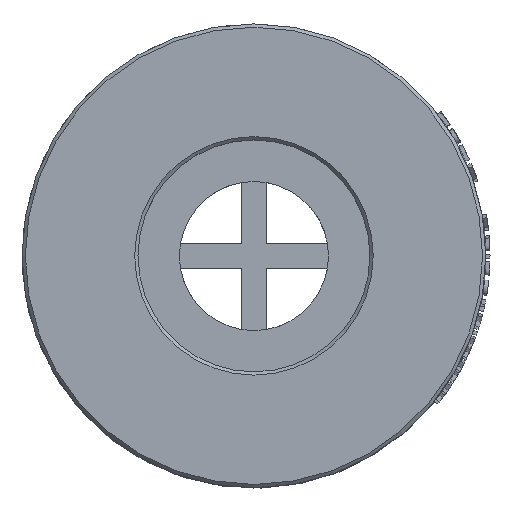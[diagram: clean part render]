
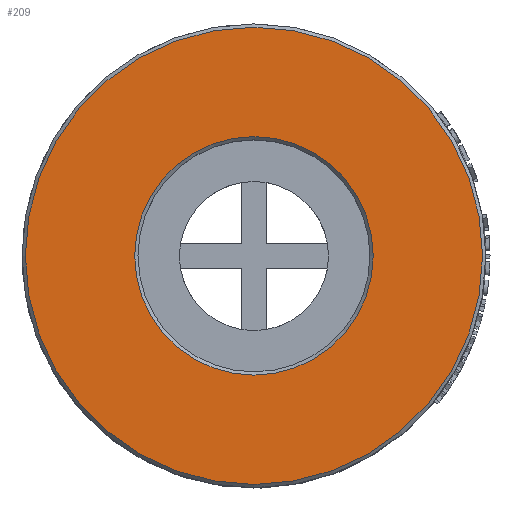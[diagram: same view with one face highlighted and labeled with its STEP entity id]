
A CAD part, top view. The second image highlights one B-rep face of the part: STEP entity #209.
In plain terms, the highlighted planar face has unit normal (0, 0, 1).
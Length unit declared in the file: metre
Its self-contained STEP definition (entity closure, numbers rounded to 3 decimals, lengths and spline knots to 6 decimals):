
#209 = ADVANCED_FACE( '', ( #563, #564 ), #565, .F. );
#563 = FACE_BOUND( '', #2431, .T. );
#564 = FACE_OUTER_BOUND( '', #2432, .T. );
#565 = PLANE( '', #2433 );
#2431 = EDGE_LOOP( '', ( #4700 ) );
#2432 = EDGE_LOOP( '', ( #4701 ) );
#2433 = AXIS2_PLACEMENT_3D( '', #4702, #4703, #4704 );
#4700 = ORIENTED_EDGE( '', *, *, #5484, .T. );
#4701 = ORIENTED_EDGE( '', *, *, #5194, .T. );
#4702 = CARTESIAN_POINT( '', ( 0.014, 0., 0.0085 ) );
#4703 = DIRECTION( '', ( 0., 0., -1. ) );
#4704 = DIRECTION( '', ( -1., 0., 0. ) );
#5194 = EDGE_CURVE( '', #5812, #5812, #5813, .F. );
#5484 = EDGE_CURVE( '', #6271, #6271, #6272, .T. );
#5812 = VERTEX_POINT( '', #7084 );
#5813 = CIRCLE( '', #7085, 0.0138 );
#6271 = VERTEX_POINT( '', #8389 );
#6272 = CIRCLE( '', #8390, 0.0072 );
#7084 = CARTESIAN_POINT( '', ( -0.0138, 0., 0.0085 ) );
#7085 = AXIS2_PLACEMENT_3D( '', #8831, #8832, #8833 );
#8389 = CARTESIAN_POINT( '', ( -0.0072, 0., 0.0085 ) );
#8390 = AXIS2_PLACEMENT_3D( '', #9125, #9126, #9127 );
#8831 = CARTESIAN_POINT( '', ( 0., 0., 0.0085 ) );
#8832 = DIRECTION( '', ( 0., 0., -1. ) );
#8833 = DIRECTION( '', ( -1., 0., 0. ) );
#9125 = CARTESIAN_POINT( '', ( 0., 0., 0.0085 ) );
#9126 = DIRECTION( '', ( 0., 0., -1. ) );
#9127 = DIRECTION( '', ( -1., 0., 0. ) );
